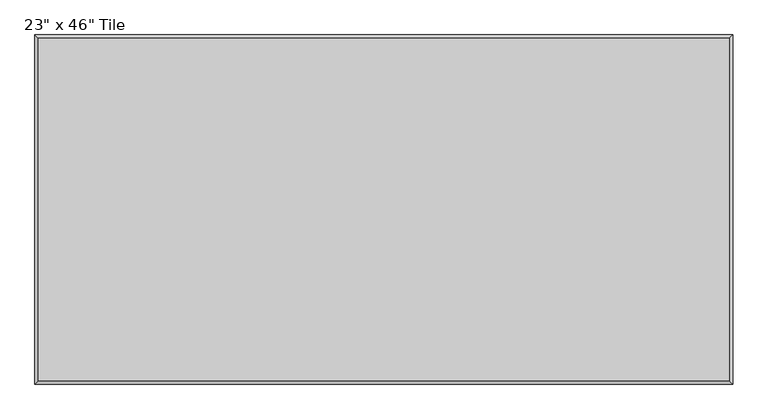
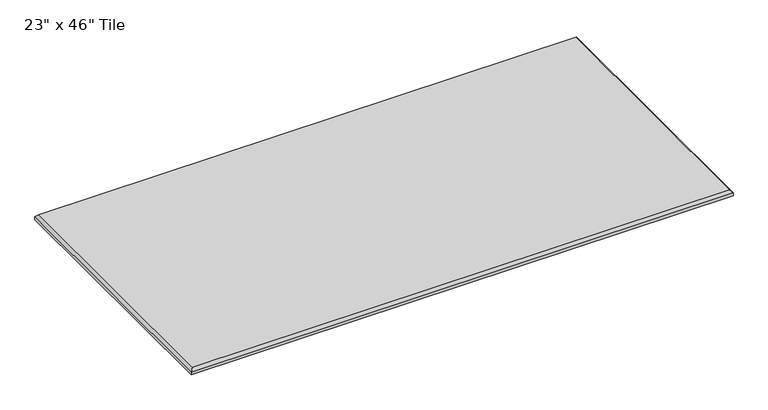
"""IFC4 building model written with IfcOpenShell, lengths in millimetres: proxy geometry."""

from ifc_helpers import new_model, si_unit, origin, place, context, project, spatial, faceted_brep, source, transform, mapped, element, save


def proxy_a09970d3(model_context):
    return source(origin(), model_context, "Body", "Brep", [
        faceted_brep([(1137.4945313, -286.5945313, 12.0054687), (1137.4945313, 286.5945312, 12.0054687), (-19.8945312, 286.5945312, 12.0054687), (-19.8945312, -286.5945313, 12.0054687), (1143.0, 292.1, 0.0), (1143.0, -292.1, 0.0), (-25.4, -292.1, 0.0), (-25.4, 292.1, 0.0), (-25.4, 292.1, 6.5), (1143.0, 292.1, 6.5), (-25.4, -292.1, 6.5), (1143.0, -292.1, 6.5)], [[[0, 1, 2, 3]], [[4, 5, 6, 7]], [[4, 7, 8, 9]], [[7, 6, 10, 8]], [[6, 5, 11, 10]], [[5, 4, 9, 11]], [[9, 1, 0, 11]], [[1, 9, 8, 2]], [[2, 8, 10, 3]], [[11, 0, 3, 10]]]),
    ])


if __name__ == "__main__":
    model = new_model("IFC4")
    model_context = context("Model", 3, world=origin())
    ifc_project = project(units=[si_unit("LENGTHUNIT", "METRE", prefix="MILLI")], contexts=[model_context])
    site = spatial("IfcSite", under=ifc_project)
    building = spatial("IfcBuilding", under=site)
    placement = place(None, origin())
    proxy_shape = proxy_a09970d3(model_context)
    element("IfcBuildingElementProxy", 1, Name="Wall-Panel-Kirei-EchoPanel-Echotile_Sync : 23\" x 46\" Tile", ObjectType="Wall-Panel-Kirei-EchoPanel-Echotile_Sync : 23\" x 46\" Tile", at=placement, inside=building, context=model_context, shape_type="MappedRepresentation", body=[
        mapped(proxy_shape, transform((0.0, 0.0, 0.0), x_axis=(1.0, 0.0, 0.0), y_axis=(0.0, 1.0, 0.0), z_axis=(0.0, 0.0, 1.0))),
    ])
    save(model, "model.ifc")
